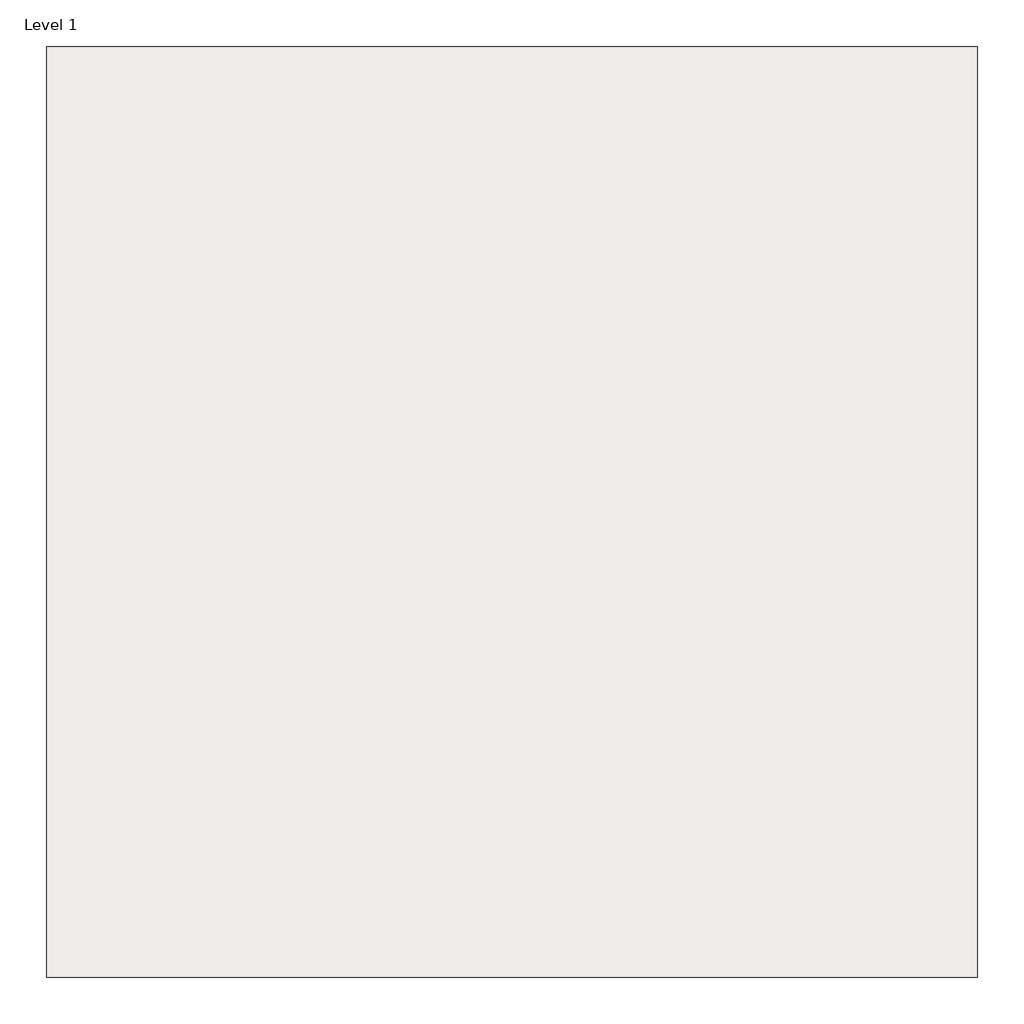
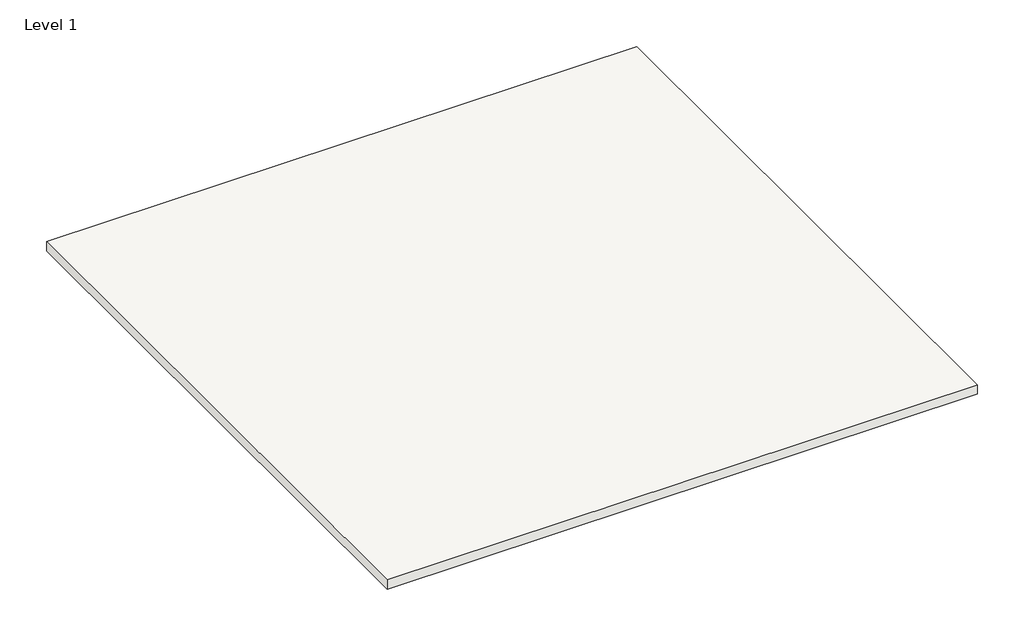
# One storey: 1 slab.
"""IFC4 building model written with IfcOpenShell, lengths in millimetres."""

from ifc_helpers import new_model, si_unit, frame, origin, place, context, project, spatial, polyline, outline, extrude, element, save

model = new_model("IFC4")

# Units and contexts
model_context = context("Model", 3, world=origin())
ifc_project = project(units=[si_unit("LENGTHUNIT", "METRE", prefix="MILLI")], contexts=[model_context])

# Site, building, storey
site = spatial("IfcSite", under=ifc_project)
building = spatial("IfcBuilding", under=site)
storey = spatial("IfcBuildingStorey", under=building, Name="Level 1", Elevation=4000.0)

# Slab
placement = place(None, origin())
element("IfcSlab", 1, ObjectType="NBS_IKOPLC_SingleLayerSheetWarmRoofCoveringSystems_IKOArmourplanHybridAdheredPSGPVCSinglePlyWarmRoofBondedSystem_20-25Year", at=placement, inside=storey, context=model_context, shape_type="SweptSolid", body=[
    extrude(outline(polyline([(0.0, -4000.0), (2500.0, -4000.0), (2500.0, -6500.0), (0.0, -6500.0), (0.0, -4000.0)])), frame((0.0, 0.0, 4000.0), z_axis=(0.0, 0.0, 1.0), x_axis=(1.0, 0.0, 0.0)), (0.0, 0.0, 1.0), 42.0),
])

save(model, "model.ifc")
